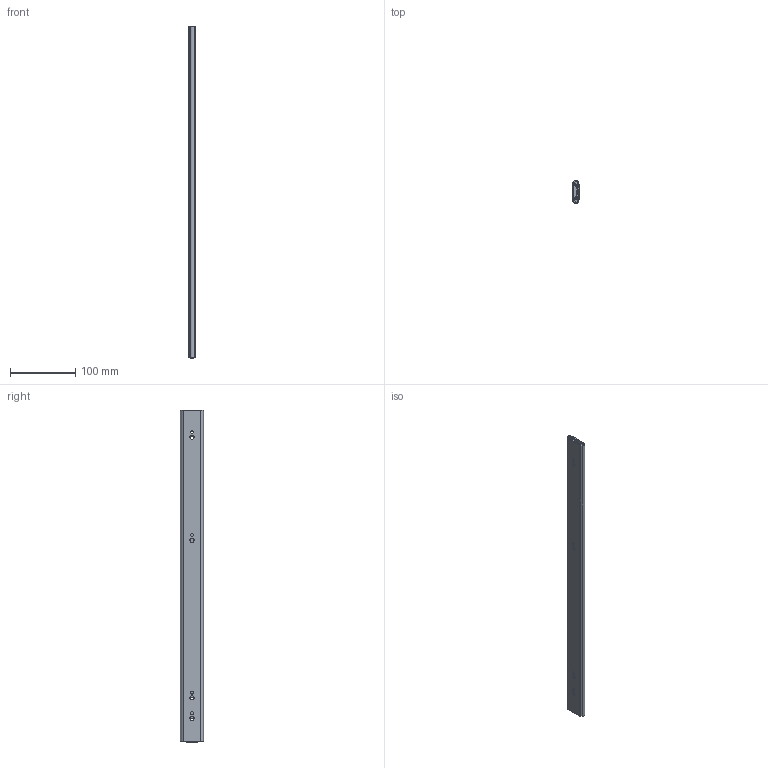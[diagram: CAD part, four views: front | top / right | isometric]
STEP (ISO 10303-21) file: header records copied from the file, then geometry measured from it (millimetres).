
FILE_DESCRIPTION(/* description */ (''),/* implementation_level */ '2;1');
FILE_NAME(/* name */ '\\NAS\db20\L2-500\DR_L2-500.stp',/* time_stamp */ '2017-09-28T11:06:48+09:00',/* author */ ('user'),/* organization */ (''),/* preprocessor_version */ 'ST-DEVELOPER v15.6',/* originating_system */ 'Autodesk Inventor 2015',/* authorisation */ '');
FILE_SCHEMA (('AUTOMOTIVE_DESIGN { 1 0 10303 214 3 1 1 }'));
Length unit declared in the file: millimetre
Products named in the file (1): DR_L2-500
Bounding box: 9.55 x 35.3 x 509 mm (x, y, z)
Volume: 71764.2 mm3; surface area: 102692 mm2
Topology: 3 solids, 3 shells, 112 faces, 313 edges, 208 vertices
Faces by surface type: plane 61, cylinder 51
Full cylindrical faces by diameter (mm): 4.5 x12, 6.3 x4
Entity records: 3655 total; most frequent: CARTESIAN_POINT 628, DIRECTION 623, ORIENTED_EDGE 594, EDGE_CURVE 297, AXIS2_PLACEMENT_3D 215, VERTEX_POINT 208, LINE 193, VECTOR 193
